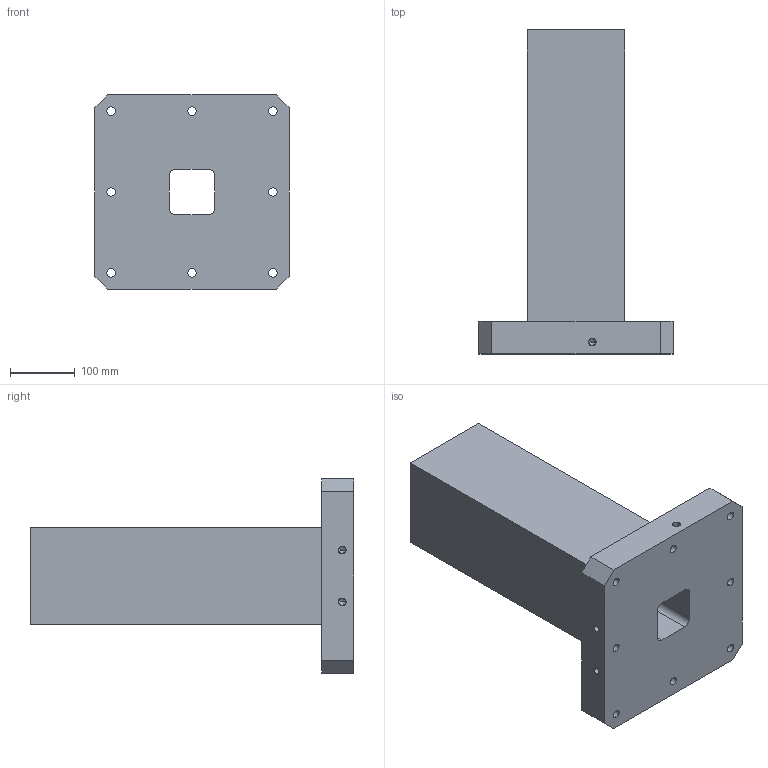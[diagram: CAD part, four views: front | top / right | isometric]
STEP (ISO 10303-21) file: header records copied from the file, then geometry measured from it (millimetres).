
FILE_DESCRIPTION((''),'2;1');
FILE_NAME('FG_WH_TOMB_SQPLNNP001','2026-05-18T13:35:08',('Admin'),(''),'CREO PARAMETRIC BY PTC INC, 2025010','CREO PARAMETRIC BY PTC INC, 2025010','');
FILE_SCHEMA(('CONFIG_CONTROL_DESIGN'));
Length unit declared in the file: millimetre
Products named in the file (1): FG_WH_TOMB_SQPLNNP001
Bounding box: 300 x 500 x 300 mm (x, y, z)
Volume: 12059820 mm3; surface area: 656156.4 mm2
Topology: 1 solids, 10 shells, 135 faces, 342 edges, 219 vertices
Faces by surface type: cylinder 76, plane 41, cone 18
Entity records: 4076 total; most frequent: DIRECTION 766, CARTESIAN_POINT 679, ORIENTED_EDGE 612, EDGE_CURVE 324, AXIS2_PLACEMENT_3D 306, VERTEX_POINT 219, EDGE_LOOP 181, CIRCLE 170
